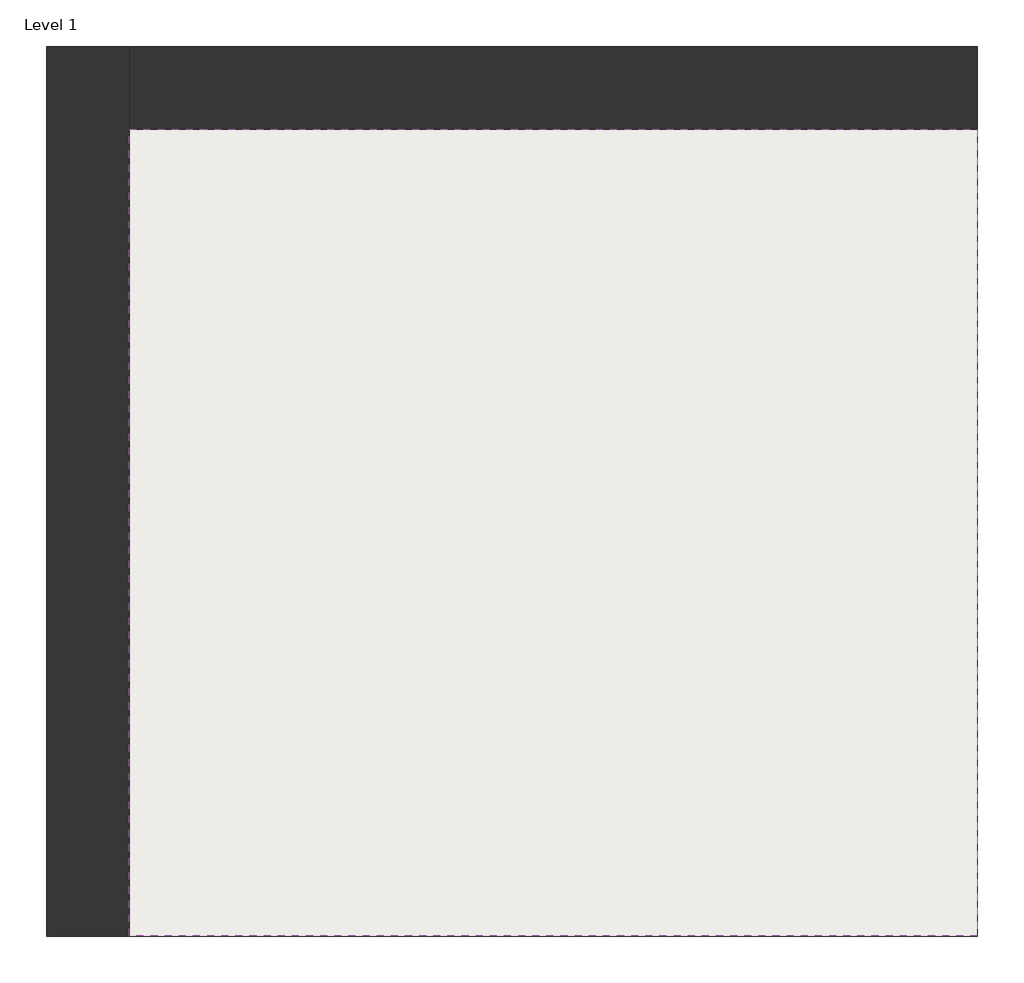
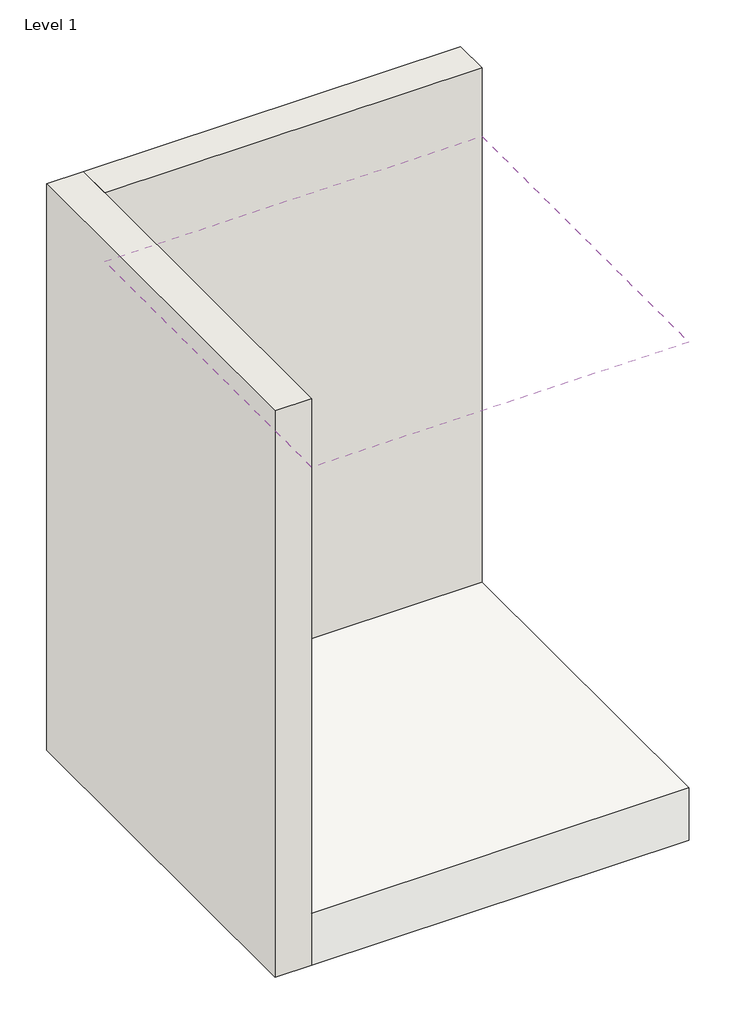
# One storey: 2 walls, 1 covering, 1 slab.
"""IFC4 building model written with IfcOpenShell, lengths in millimetres."""

import ifcopenshell
import ifcopenshell.guid

model = None  # the IFC model being written
_history = None  # IfcOwnerHistory: only IFC2X3 demands one
_inside = {}  # id of a spatial element -> (the spatial element, [elements in it])
_under = {}  # id of a project, library or spatial element -> (it, [spatial elements below it])
_declared = {}  # id of a project -> (the project, [libraries it declares])
_typed = {}  # id of a type object -> (the type object, [elements of that type])
_made_of = {}  # id of a material, layer set ... -> (it, [elements and type objects made of it])


def new_model(schema):
    """Start an empty IFC model of exactly this schema.

    Asked for "IFC4X3", IfcOpenShell would pick the latest addendum, in which some entities
    have other attributes; the version numbers below select the first issue.
    IFC2X3 requires an IfcOwnerHistory on every rooted entity: one is made here for all.
    """
    global model, _history
    if schema == "IFC4X3":
        model = ifcopenshell.file(schema_version=(4, 3, 0, 0))
    else:
        model = ifcopenshell.file(schema=schema)
    _inside.clear()
    _under.clear()
    _declared.clear()
    _typed.clear()
    _made_of.clear()
    _history = None
    if model.schema == "IFC2X3":
        org = make("IfcOrganization", Name="unknown")
        user = make(
            "IfcPersonAndOrganization",
            ThePerson=make("IfcPerson", FamilyName="unknown"),
            TheOrganization=org,
        )
        app = make(
            "IfcApplication",
            ApplicationDeveloper=org,
            Version="unknown",
            ApplicationFullName="unknown",
            ApplicationIdentifier="unknown",
        )
        _history = make(
            "IfcOwnerHistory",
            OwningUser=user,
            OwningApplication=app,
            ChangeAction="ADDED",
            CreationDate=0,
        )
    return model


def make(cls, **values):
    """One entity of the class cls with the attributes given. An attribute that is None is left unset."""
    return model.create_entity(
        cls, **{name: value for name, value in values.items() if value is not None}
    )


def rooted(cls, **values):
    """An entity with a GlobalId (a new one), such as an element, a storey or a relation."""
    return make(cls, GlobalId=ifcopenshell.guid.new(), OwnerHistory=_history, **values)


def si_unit(unit_type, name, prefix=None):
    """IfcSIUnit, for example si_unit("LENGTHUNIT", "METRE", prefix="MILLI")."""
    return make("IfcSIUnit", UnitType=unit_type, Prefix=prefix, Name=name)


def assignment(units):
    """IfcUnitAssignment: the units of a project."""
    return None if units is None else make("IfcUnitAssignment", Units=units)


def point(xyz):
    """IfcCartesianPoint."""
    return None if xyz is None else make("IfcCartesianPoint", Coordinates=xyz)


def direction(xyz):
    """IfcDirection."""
    return None if xyz is None else make("IfcDirection", DirectionRatios=xyz)


def frame(location, z_axis=None, x_axis=None):
    """IfcAxis2Placement3D, a coordinate frame: its origin and axes. An axis left out is left unset."""
    return make(
        "IfcAxis2Placement3D",
        Location=point(location),
        Axis=direction(z_axis),
        RefDirection=direction(x_axis),
    )


def origin():
    """The frame at (0, 0, 0) with its axes left unset."""
    return frame((0.0, 0.0, 0.0))


def place(relative_to, where):
    """IfcLocalPlacement: puts the frame where relative to a parent placement (None: the world)."""
    return make(
        "IfcLocalPlacement", PlacementRelTo=relative_to, RelativePlacement=where
    )


def context(
    kind, dimensions, precision=None, world=None, true_north=None, identifier=None
):
    """IfcGeometricRepresentationContext, for example the 3D "Model" context."""
    return make(
        "IfcGeometricRepresentationContext",
        ContextIdentifier=identifier,
        ContextType=kind,
        CoordinateSpaceDimension=dimensions,
        Precision=precision,
        WorldCoordinateSystem=world,
        TrueNorth=true_north,
    )


def project(units=None, contexts=None):
    """IfcProject with its units and contexts."""
    return rooted(
        "IfcProject",
        Name="project",
        RepresentationContexts=contexts,
        UnitsInContext=assignment(units),
    )


def spatial(cls, under=None, at=None, **own):
    """A site, building, storey or space (cls), placed at a placement, below another one or the project."""
    s = rooted(cls, ObjectPlacement=at, **own)
    if under is not None:
        _under.setdefault(under.id(), (under, []))[1].append(s)
    return s


def polyline(points):
    """IfcPolyline through the points."""
    return make("IfcPolyline", Points=[point(p) for p in points])


def outline(outer, holes=None, kind="AREA"):
    """IfcArbitraryClosedProfileDef: a profile drawn as a closed curve; with holes, ...WithVoids."""
    if holes is None:
        return make("IfcArbitraryClosedProfileDef", ProfileType=kind, OuterCurve=outer)
    return make(
        "IfcArbitraryProfileDefWithVoids",
        ProfileType=kind,
        OuterCurve=outer,
        InnerCurves=holes,
    )


def extrude(swept, where, along, depth):
    """IfcExtrudedAreaSolid: the profile swept, set in the frame where, extruded along a direction by depth."""
    return make(
        "IfcExtrudedAreaSolid",
        SweptArea=swept,
        Position=where,
        ExtrudedDirection=direction(along),
        Depth=depth,
    )


def faces_of(points, faces, orient=None, outer=None):
    """IfcFace entities. A face is a list of loops; a loop is a list of indices into points, from 0.

    orient and outer hold one flag for each loop. By default every Orientation is true, the
    first loop of a face is its IfcFaceOuterBound and the others are IfcFaceBound.
    """
    made = []
    for i, loops in enumerate(faces):
        bounds = []
        for j, loop in enumerate(loops):
            is_outer = j == 0 if outer is None else outer[i][j]
            bounds.append(
                make(
                    "IfcFaceOuterBound" if is_outer else "IfcFaceBound",
                    Bound=make("IfcPolyLoop", Polygon=[points[k] for k in loop]),
                    Orientation=True if orient is None else orient[i][j],
                )
            )
        made.append(make("IfcFace", Bounds=bounds))
    return made


def faceted_brep(points, faces, orient=None, outer=None, voids=None):
    """IfcFacetedBrep: a solid bounded by flat faces; with voids (closed shells), ...WithVoids."""
    shared = [point(p) for p in points]
    hull = make("IfcClosedShell", CfsFaces=faces_of(shared, faces, orient, outer))
    if voids is None:
        return make("IfcFacetedBrep", Outer=hull)
    return make(
        "IfcFacetedBrepWithVoids",
        Outer=hull,
        Voids=[
            make(cls, CfsFaces=faces_of(shared, fs, o, b)) for cls, fs, o, b in voids
        ],
    )


def shape(context_of_items, identifier, shape_type, items):
    """IfcShapeRepresentation: the items that make up one representation, for example the "Body"."""
    return make(
        "IfcShapeRepresentation",
        ContextOfItems=context_of_items,
        RepresentationIdentifier=identifier,
        RepresentationType=shape_type,
        Items=items,
    )


def made_of(thing, what):
    """Note that an element or type object is made of a material, layer set ...; save() writes the relation."""
    if what is not None:
        _made_of.setdefault(what.id(), (what, []))[1].append(thing)
    return thing


def element(
    cls,
    number,
    at=None,
    inside=None,
    cuts=None,
    type_object=None,
    material=None,
    context=None,
    identifier="Body",
    shape_type=None,
    held_by="IfcProductDefinitionShape",
    body=None,
    shapes=None,
    **own,
):
    """One element of the class cls, such as IfcWall. Its Tag is "e" and its number.

    at: its placement. inside: the storey or other place that contains it. cuts: it is an
    opening in that element (IfcRelVoidsElement). A single representation is given by context,
    identifier, shape_type and body (its items); several are given by shapes. held_by: the class
    of the entity that holds the representations. save() writes the other relations.
    """
    e = rooted(cls, Tag="e%d" % number, ObjectPlacement=at, **own)
    if body is not None:
        shapes = [shape(context, identifier, shape_type, body)]
    if shapes is not None:
        e.Representation = make(held_by, Representations=shapes)
    if inside is not None:
        _inside.setdefault(inside.id(), (inside, []))[1].append(e)
    if cuts is not None:
        rooted(
            "IfcRelVoidsElement", RelatingBuildingElement=cuts, RelatedOpeningElement=e
        )
    if type_object is not None:
        _typed.setdefault(type_object.id(), (type_object, []))[1].append(e)
    return made_of(e, material)


def aggregate(whole, parts):
    """IfcRelAggregates: a whole, such as a stair, and the parts it consists of."""
    return rooted("IfcRelAggregates", RelatingObject=whole, RelatedObjects=parts)


def save(model, path):
    """Write the relations noted so far, then the file.

    IfcRelAggregates (storeys below a building ...), IfcRelContainedInSpatialStructure (elements
    in a storey), IfcRelDefinesByType, IfcRelAssociatesMaterial and IfcRelDeclares: one each for
    every whole, place, type object, material and project.
    """
    for whole, parts in _under.values():
        aggregate(whole, parts)
    for where, things in _inside.values():
        rooted(
            "IfcRelContainedInSpatialStructure",
            RelatedElements=things,
            RelatingStructure=where,
        )
    for kind, things in _typed.values():
        rooted("IfcRelDefinesByType", RelatedObjects=things, RelatingType=kind)
    for what, things in _made_of.values():
        rooted("IfcRelAssociatesMaterial", RelatedObjects=things, RelatingMaterial=what)
    for by, libraries in _declared.values():
        rooted("IfcRelDeclares", RelatingContext=by, RelatedDefinitions=libraries)
    model.write(path)


model = new_model("IFC4")

# Units and contexts
model_context = context("Model", 3, world=origin())
ifc_project = project(units=[si_unit("LENGTHUNIT", "METRE", prefix="MILLI")], contexts=[model_context])

# Site, building, storey
site = spatial("IfcSite", under=ifc_project)
building = spatial("IfcBuilding", under=site)
storey = spatial("IfcBuildingStorey", under=building, Name="Level 1", Elevation=0.0)

# Covering
placement = place(None, origin())
element("IfcCovering", 1, ObjectType="Ceiling 2", at=placement, inside=storey, context=model_context, shape_type="SweptSolid", body=[
    extrude(outline(polyline([(4291.0676417, 3741.7404022), (4291.0676417, 1760.5404022), (2208.2676417, 1760.5404022), (2208.2676417, 3741.7404022), (4291.0676417, 3741.7404022)])), frame((0.0, 0.0, 2600.0), z_axis=(0.0, 0.0, 1.0), x_axis=(1.0, 0.0, 0.0)), (0.0, 0.0, 1.0), 25.4),
])

# Slab
element("IfcSlab", 2, ObjectType="Floor 1", at=placement, inside=storey, context=model_context, shape_type="SweptSolid", body=[
    extrude(outline(polyline([(4291.0676417, 3741.7404022), (4291.0676417, 1760.5404022), (2208.2676417, 1760.5404022), (2208.2676417, 3741.7404022), (4291.0676417, 3741.7404022)])), frame((0.0, 0.0, -304.8), z_axis=(0.0, 0.0, 1.0), x_axis=(1.0, 0.0, 0.0)), (0.0, 0.0, 1.0), 304.8),
])

# Walls
element("IfcWall", 3, ObjectType="Wall 1", at=placement, inside=storey, context=model_context, shape_type="Brep", body=[
    faceted_brep([(2005.0676417, 3944.9404022, -304.8), (2005.0676417, 1760.5404022, -304.8), (2005.0676417, 1760.5404022, 3000.0), (2005.0676417, 3944.9404022, 3000.0), (2208.2676417, 3944.9404022, -304.8), (2208.2676417, 3944.9404022, 3000.0), (2208.2676417, 3741.7404022, 3000.0), (2208.2676417, 1760.5404022, 3000.0), (2208.2676417, 1760.5404022, -304.8), (2208.2676417, 3741.7404022, -304.8)], [[[0, 1, 2, 3]], [[4, 5, 6, 7, 8, 9]], [[1, 0, 4, 9, 8]], [[2, 1, 8, 7]], [[3, 2, 7, 6, 5]], [[0, 3, 5, 4]]]),
])
element("IfcWall", 4, ObjectType="Wall 1", at=placement, inside=storey, context=model_context, shape_type="SweptSolid", body=[
    extrude(outline(polyline([(4291.0676417, 3741.7404022), (2208.2676417, 3741.7404022), (2208.2676417, 3944.9404022), (4291.0676417, 3944.9404022), (4291.0676417, 3741.7404022)])), frame((0.0, 0.0, -304.8), z_axis=(0.0, 0.0, 1.0), x_axis=(1.0, 0.0, 0.0)), (0.0, 0.0, 1.0), 3304.8),
])

save(model, "model.ifc")
